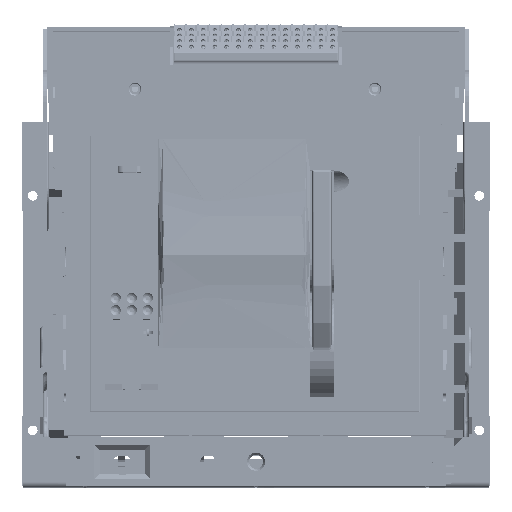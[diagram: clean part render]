
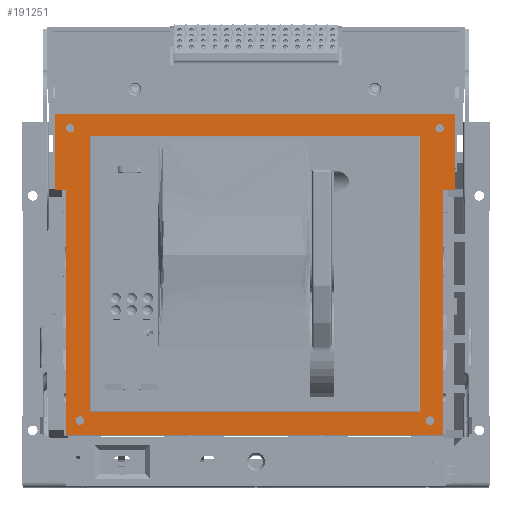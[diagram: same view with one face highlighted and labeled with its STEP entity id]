
A CAD part, top view. The second image highlights one B-rep face of the part: STEP entity #191251.
In plain terms, the highlighted planar face has unit normal (0, 0, 1) as drawn and (0, -1, 0) by its records, which use the part's own axes.
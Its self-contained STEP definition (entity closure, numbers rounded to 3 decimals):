
#179092=CARTESIAN_POINT('',(-153.5,44.,-139.));
#179093=DIRECTION('',(0.,1.,0.));
#179094=DIRECTION('',(0.,0.,-1.));
#179095=AXIS2_PLACEMENT_3D('',#179092,#179093,#179094);
#179107=DIRECTION('',(-1.,0.,0.));
#179108=VECTOR('',#179107,307.);
#179109=CARTESIAN_POINT('',(153.5,44.,-139.5));
#179110=LINE('',#179109,#179108);
#179166=DIRECTION('',(0.,0.,-1.));
#179167=VECTOR('',#179166,257.);
#179168=CARTESIAN_POINT('',(154.,44.,118.));
#179169=LINE('',#179168,#179167);
#179195=CARTESIAN_POINT('',(153.5,44.,118.));
#179196=DIRECTION('',(0.,1.,0.));
#179197=DIRECTION('',(0.,0.,1.));
#179198=AXIS2_PLACEMENT_3D('',#179195,#179196,#179197);
#179274=DIRECTION('',(0.,0.,1.));
#179275=VECTOR('',#179274,257.);
#179276=CARTESIAN_POINT('',(-154.,44.,-139.));
#179277=LINE('',#179276,#179275);
#179281=CARTESIAN_POINT('',(163.5,44.,126.5));
#179282=DIRECTION('',(0.,-1.,0.));
#179283=DIRECTION('',(-1.,0.,0.));
#179284=AXIS2_PLACEMENT_3D('',#179281,#179282,#179283);
#179289=CARTESIAN_POINT('',(163.5,44.,126.5));
#179290=DIRECTION('',(0.,-1.,0.));
#179291=DIRECTION('',(1.,0.,0.));
#179292=AXIS2_PLACEMENT_3D('',#179289,#179290,#179291);
#179297=CARTESIAN_POINT('',(-163.5,44.,126.5));
#179298=DIRECTION('',(0.,-1.,0.));
#179299=DIRECTION('',(-1.,0.,0.));
#179300=AXIS2_PLACEMENT_3D('',#179297,#179298,#179299);
#179305=CARTESIAN_POINT('',(-163.5,44.,126.5));
#179306=DIRECTION('',(0.,-1.,0.));
#179307=DIRECTION('',(1.,0.,0.));
#179308=AXIS2_PLACEMENT_3D('',#179305,#179306,#179307);
#179313=CARTESIAN_POINT('',(-172.5,44.,-146.5));
#179314=DIRECTION('',(0.,-1.,0.));
#179315=DIRECTION('',(-1.,0.,0.));
#179316=AXIS2_PLACEMENT_3D('',#179313,#179314,#179315);
#179321=CARTESIAN_POINT('',(-172.5,44.,-146.5));
#179322=DIRECTION('',(0.,-1.,0.));
#179323=DIRECTION('',(1.,0.,0.));
#179324=AXIS2_PLACEMENT_3D('',#179321,#179322,#179323);
#179329=CARTESIAN_POINT('',(172.5,44.,-146.5));
#179330=DIRECTION('',(0.,-1.,0.));
#179331=DIRECTION('',(-1.,0.,0.));
#179332=AXIS2_PLACEMENT_3D('',#179329,#179330,#179331);
#179337=CARTESIAN_POINT('',(172.5,44.,-146.5));
#179338=DIRECTION('',(0.,-1.,0.));
#179339=DIRECTION('',(1.,0.,0.));
#179340=AXIS2_PLACEMENT_3D('',#179337,#179338,#179339);
#179345=DIRECTION('',(0.,0.,1.));
#179346=VECTOR('',#179345,229.);
#179347=CARTESIAN_POINT('',(-176.,44.,-89.));
#179348=LINE('',#179347,#179346);
#179352=DIRECTION('',(0.,0.,-1.));
#179353=VECTOR('',#179352,229.);
#179354=CARTESIAN_POINT('',(176.,44.,140.));
#179355=LINE('',#179354,#179353);
#179359=DIRECTION('',(-1.,0.,0.));
#179360=VECTOR('',#179359,11.);
#179361=CARTESIAN_POINT('',(187.,44.,-89.));
#179362=LINE('',#179361,#179360);
#179366=DIRECTION('',(0.,0.,1.));
#179367=VECTOR('',#179366,71.);
#179368=CARTESIAN_POINT('',(187.,44.,-160.));
#179369=LINE('',#179368,#179367);
#179373=DIRECTION('',(1.,0.,0.));
#179374=VECTOR('',#179373,374.);
#179375=CARTESIAN_POINT('',(-187.,44.,-160.));
#179376=LINE('',#179375,#179374);
#179380=DIRECTION('',(0.,0.,-1.));
#179381=VECTOR('',#179380,71.);
#179382=CARTESIAN_POINT('',(-187.,44.,-89.));
#179383=LINE('',#179382,#179381);
#179387=DIRECTION('',(-1.,0.,0.));
#179388=VECTOR('',#179387,11.);
#179389=CARTESIAN_POINT('',(-176.,44.,-89.));
#179390=LINE('',#179389,#179388);
#182697=DIRECTION('',(1.,0.,0.));
#182698=VECTOR('',#182697,352.);
#182699=CARTESIAN_POINT('',(-176.,44.,140.));
#182700=LINE('',#182699,#182698);
#185487=CARTESIAN_POINT('',(153.5,44.,-139.));
#185488=DIRECTION('',(0.,1.,0.));
#185489=DIRECTION('',(1.,0.,0.));
#185490=AXIS2_PLACEMENT_3D('',#185487,#185488,#185489);
#185495=DIRECTION('',(-1.,0.,0.));
#185496=VECTOR('',#185495,307.);
#185497=CARTESIAN_POINT('',(153.5,44.,118.5));
#185498=LINE('',#185497,#185496);
#185509=CARTESIAN_POINT('',(-153.5,44.,118.));
#185510=DIRECTION('',(0.,1.,0.));
#185511=DIRECTION('',(-1.,0.,0.));
#185512=AXIS2_PLACEMENT_3D('',#185509,#185510,#185511);
#185725=CARTESIAN_POINT('',(-187.,44.,-89.));
#185726=CARTESIAN_POINT('',(-187.,44.,-160.));
#185727=VERTEX_POINT('',#185725);
#185728=VERTEX_POINT('',#185726);
#185729=CARTESIAN_POINT('',(187.,44.,-160.));
#185730=VERTEX_POINT('',#185729);
#185731=CARTESIAN_POINT('',(187.,44.,-89.));
#185732=VERTEX_POINT('',#185731);
#185737=CARTESIAN_POINT('',(-176.,44.,140.));
#185738=CARTESIAN_POINT('',(176.,44.,140.));
#185739=VERTEX_POINT('',#185737);
#185740=VERTEX_POINT('',#185738);
#186951=CARTESIAN_POINT('',(-176.,44.,-89.));
#186952=VERTEX_POINT('',#186951);
#186953=CARTESIAN_POINT('',(176.,44.,-89.));
#186954=VERTEX_POINT('',#186953);
#187093=CARTESIAN_POINT('',(-176.424,44.,-146.5));
#187094=CARTESIAN_POINT('',(-168.576,44.,-146.5));
#187095=VERTEX_POINT('',#187093);
#187096=VERTEX_POINT('',#187094);
#187097=CARTESIAN_POINT('',(168.576,44.,-146.5));
#187098=CARTESIAN_POINT('',(176.424,44.,-146.5));
#187099=VERTEX_POINT('',#187097);
#187100=VERTEX_POINT('',#187098);
#187101=CARTESIAN_POINT('',(-167.424,44.,126.5));
#187102=CARTESIAN_POINT('',(-159.576,44.,126.5));
#187103=VERTEX_POINT('',#187101);
#187104=VERTEX_POINT('',#187102);
#187105=CARTESIAN_POINT('',(159.576,44.,126.5));
#187106=CARTESIAN_POINT('',(167.424,44.,126.5));
#187107=VERTEX_POINT('',#187105);
#187108=VERTEX_POINT('',#187106);
#187381=CARTESIAN_POINT('',(154.,44.,118.));
#187383=VERTEX_POINT('',#187381);
#187385=CARTESIAN_POINT('',(153.5,44.,118.5));
#187387=VERTEX_POINT('',#187385);
#187394=CARTESIAN_POINT('',(153.5,44.,-139.5));
#187396=VERTEX_POINT('',#187394);
#187398=CARTESIAN_POINT('',(154.,44.,-139.));
#187399=VERTEX_POINT('',#187398);
#187400=CARTESIAN_POINT('',(-153.5,44.,118.5));
#187401=VERTEX_POINT('',#187400);
#187402=CARTESIAN_POINT('',(-154.,44.,-139.));
#187403=CARTESIAN_POINT('',(-154.,44.,118.));
#187404=VERTEX_POINT('',#187402);
#187405=VERTEX_POINT('',#187403);
#187406=CARTESIAN_POINT('',(-153.5,44.,-139.5));
#187407=VERTEX_POINT('',#187406);
#191191=CARTESIAN_POINT('',(0.,44.,0.));
#191192=DIRECTION('',(0.,-1.,0.));
#191193=DIRECTION('',(0.,0.,-1.));
#191194=AXIS2_PLACEMENT_3D('',#191191,#191192,#191193);
#191195=PLANE('',#191194);
#191197=ORIENTED_EDGE('',*,*,#191196,.T.);
#191199=ORIENTED_EDGE('',*,*,#191198,.T.);
#191201=ORIENTED_EDGE('',*,*,#191200,.T.);
#191203=ORIENTED_EDGE('',*,*,#191202,.F.);
#191205=ORIENTED_EDGE('',*,*,#191204,.F.);
#191207=ORIENTED_EDGE('',*,*,#191206,.F.);
#191209=ORIENTED_EDGE('',*,*,#191208,.F.);
#191211=ORIENTED_EDGE('',*,*,#191210,.F.);
#191212=EDGE_LOOP('',(#191197,#191199,#191201,#191203,#191205,#191207,#191209,
#191211));
#191213=FACE_OUTER_BOUND('',#191212,.F.);
#191215=ORIENTED_EDGE('',*,*,#191214,.T.);
#191217=ORIENTED_EDGE('',*,*,#191216,.T.);
#191218=EDGE_LOOP('',(#191215,#191217));
#191219=FACE_BOUND('',#191218,.F.);
#191221=ORIENTED_EDGE('',*,*,#191220,.T.);
#191223=ORIENTED_EDGE('',*,*,#191222,.T.);
#191224=EDGE_LOOP('',(#191221,#191223));
#191225=FACE_BOUND('',#191224,.F.);
#191227=ORIENTED_EDGE('',*,*,#191226,.T.);
#191229=ORIENTED_EDGE('',*,*,#191228,.T.);
#191230=EDGE_LOOP('',(#191227,#191229));
#191231=FACE_BOUND('',#191230,.F.);
#191233=ORIENTED_EDGE('',*,*,#191232,.T.);
#191235=ORIENTED_EDGE('',*,*,#191234,.T.);
#191236=EDGE_LOOP('',(#191233,#191235));
#191237=FACE_BOUND('',#191236,.F.);
#191238=ORIENTED_EDGE('',*,*,#191045,.F.);
#191240=ORIENTED_EDGE('',*,*,#191239,.F.);
#191241=ORIENTED_EDGE('',*,*,#191098,.F.);
#191242=ORIENTED_EDGE('',*,*,#191116,.F.);
#191244=ORIENTED_EDGE('',*,*,#191243,.T.);
#191246=ORIENTED_EDGE('',*,*,#191245,.F.);
#191247=ORIENTED_EDGE('',*,*,#191181,.F.);
#191248=ORIENTED_EDGE('',*,*,#191029,.F.);
#191249=EDGE_LOOP('',(#191238,#191240,#191241,#191242,#191244,#191246,#191247,
#191248));
#191250=FACE_BOUND('',#191249,.F.);
#191251=ADVANCED_FACE('',(#191213,#191219,#191225,#191231,#191237,#191250),
#191195,.T.);
#179096=CIRCLE('',#179095,0.5);
#179199=CIRCLE('',#179198,0.5);
#179285=CIRCLE('',#179284,3.924);
#179293=CIRCLE('',#179292,3.924);
#179301=CIRCLE('',#179300,3.924);
#179309=CIRCLE('',#179308,3.924);
#179317=CIRCLE('',#179316,3.924);
#179325=CIRCLE('',#179324,3.924);
#179333=CIRCLE('',#179332,3.924);
#179341=CIRCLE('',#179340,3.924);
#185491=CIRCLE('',#185490,0.5);
#185513=CIRCLE('',#185512,0.5);
#191029=EDGE_CURVE('',#187407,#187404,#179096,.T.);
#191045=EDGE_CURVE('',#187396,#187407,#179110,.T.);
#191098=EDGE_CURVE('',#187383,#187399,#179169,.T.);
#191116=EDGE_CURVE('',#187387,#187383,#179199,.T.);
#191181=EDGE_CURVE('',#187404,#187405,#179277,.T.);
#191196=EDGE_CURVE('',#186952,#185739,#179348,.T.);
#191198=EDGE_CURVE('',#185739,#185740,#182700,.T.);
#191200=EDGE_CURVE('',#185740,#186954,#179355,.T.);
#191202=EDGE_CURVE('',#185732,#186954,#179362,.T.);
#191204=EDGE_CURVE('',#185730,#185732,#179369,.T.);
#191206=EDGE_CURVE('',#185728,#185730,#179376,.T.);
#191208=EDGE_CURVE('',#185727,#185728,#179383,.T.);
#191210=EDGE_CURVE('',#186952,#185727,#179390,.T.);
#191214=EDGE_CURVE('',#187103,#187104,#179301,.T.);
#191216=EDGE_CURVE('',#187104,#187103,#179309,.T.);
#191220=EDGE_CURVE('',#187095,#187096,#179317,.T.);
#191222=EDGE_CURVE('',#187096,#187095,#179325,.T.);
#191226=EDGE_CURVE('',#187099,#187100,#179333,.T.);
#191228=EDGE_CURVE('',#187100,#187099,#179341,.T.);
#191232=EDGE_CURVE('',#187107,#187108,#179285,.T.);
#191234=EDGE_CURVE('',#187108,#187107,#179293,.T.);
#191239=EDGE_CURVE('',#187399,#187396,#185491,.T.);
#191243=EDGE_CURVE('',#187387,#187401,#185498,.T.);
#191245=EDGE_CURVE('',#187405,#187401,#185513,.T.);
